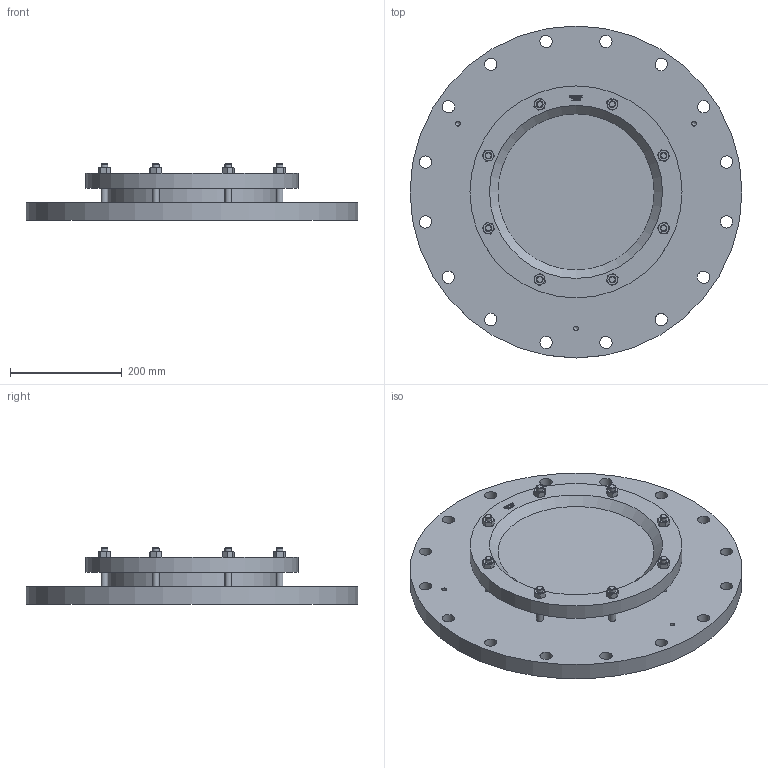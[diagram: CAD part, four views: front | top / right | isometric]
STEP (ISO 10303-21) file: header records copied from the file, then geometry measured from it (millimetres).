
FILE_DESCRIPTION(/* description */ (''),/* implementation_level */ '2;1');
FILE_NAME(/* name */ 'W:\Konstruktion_ACI\325\_STEP\325-450-6.stp',/* time_stamp */ '2022-03-02T17:11:09+01:00',/* author */ ('koslowksi'),/* organization */ (''),/* preprocessor_version */ 'ST-DEVELOPER v16.1',/* originating_system */ 'Autodesk Inventor 2016',/* authorisation */ '');
FILE_SCHEMA (('AUTOMOTIVE_DESIGN { 1 0 10303 214 3 1 1 }'));
Length unit declared in the file: millimetre
Products named in the file (1): 325-450-6
Bounding box: 595 x 595 x 101 mm (x, y, z)
Volume: 12404655.3 mm3; surface area: 796027.5 mm2
Topology: 1 solids, 1 shells, 453 faces, 1156 edges, 743 vertices
Faces by surface type: plane 199, cone 108, bspline 108, cylinder 38
Full cylindrical faces by diameter (mm): 8.376 x3, 12 x16, 22 x16, 304 x1, 380 x1, 595 x1
Entity records: 14010 total; most frequent: CARTESIAN_POINT 4037, ORIENTED_EDGE 2158, DIRECTION 1545, EDGE_CURVE 1079, VERTEX_POINT 716, EDGE_LOOP 589, AXIS2_PLACEMENT_3D 528, LINE 489
